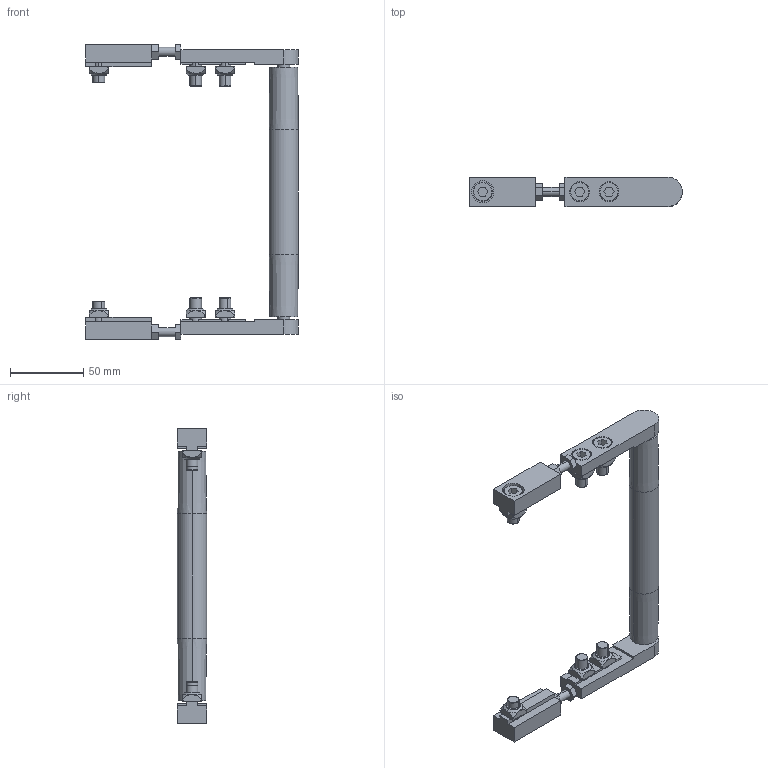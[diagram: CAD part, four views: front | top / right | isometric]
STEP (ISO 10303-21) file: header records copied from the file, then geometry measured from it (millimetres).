
FILE_DESCRIPTION (( 'STEP AP214' ), '1' );
FILE_NAME ('084.020.KI.150.STEP', '2018-12-06T13:12:40', ( '' ), ( '' ), 'SwSTEP 2.0', 'SolidWorks 2018', '' );
FILE_SCHEMA (( 'AUTOMOTIVE_DESIGN' ));
Length unit declared in the file: millimetre
Products named in the file (10): 084.802.008; 084.020.KI.150; Circlip DIN 471 - 8 x 0.8_Circlip DIN 471 - 8 x 0.8; 084.800.012; 084.800.026; 084.800.008; 084.301.000 VITI ALUSIC_084.301.003; 084.800.007; 084.800.002; 084.302.000 DADI ALUSIC 13x13-1_084.302.004
Assembly tree (27 placements, depth 2):
  084.020.KI.150
    084.802.008  x2
    084.301.000 VITI ALUSIC_084.301.003  x6
    084.302.000 DADI ALUSIC 13x13-1_084.302.004  x6
    084.800.026
    084.800.012  x4
    084.800.008  x2
    084.800.002  x2
    084.800.007  x2
    Circlip DIN 471 - 8 x 0.8_Circlip DIN 471 - 8 x 0.8  x2
Bounding box: 145 x 20 x 201 mm (x, y, z)
Volume: 91522.1 mm3; surface area: 60637.4 mm2
Topology: 31 solids, 31 shells, 664 faces, 1564 edges, 998 vertices
Faces by surface type: plane 262, cylinder 210, torus 112, cone 56, bspline 24
Entity records: 7452 total; most frequent: CARTESIAN_POINT 1561, DIRECTION 1208, ORIENTED_EDGE 1048, EDGE_CURVE 524, AXIS2_PLACEMENT_3D 474, VERTEX_POINT 337, LINE 260, VECTOR 260
